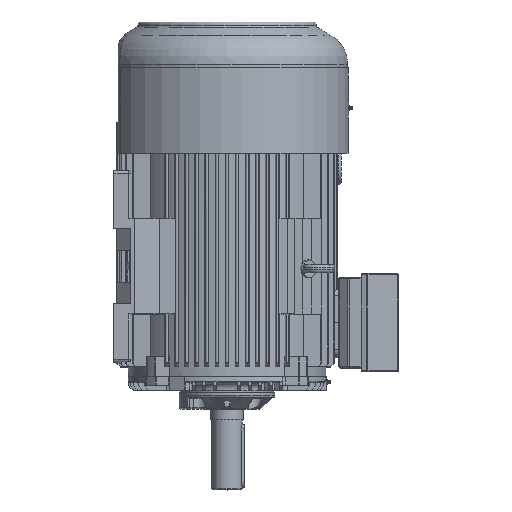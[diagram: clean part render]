
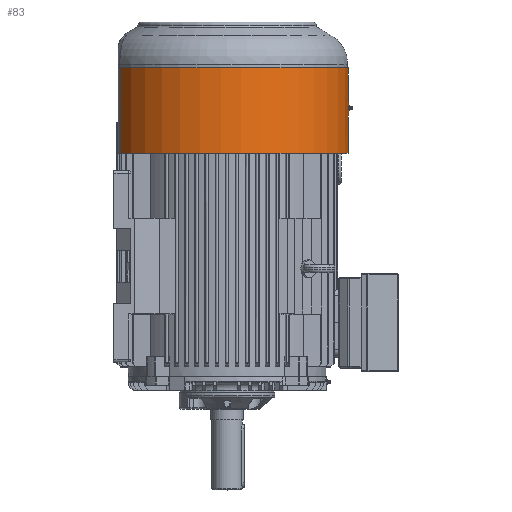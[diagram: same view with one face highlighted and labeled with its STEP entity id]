
A CAD part, top view. The second image highlights one B-rep face of the part: STEP entity #83.
In plain terms, the highlighted cylindrical face has radius 241.5 mm (diameter 483 mm), a partial arc.
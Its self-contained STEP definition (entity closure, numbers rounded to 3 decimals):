
#83 = ADVANCED_FACE( '', ( #1286, #1287 ), #1288, .T. );
#1286 = FACE_OUTER_BOUND( '', #3795, .T. );
#1287 = FACE_BOUND( '', #3796, .T. );
#1288 = CYLINDRICAL_SURFACE( '', #3797, 241.5 );
#3795 = EDGE_LOOP( '', ( #7930, #7931, #7932, #7933 ) );
#3796 = EDGE_LOOP( '', ( #7934, #7935, #7936, #7937, #7938, #7939 ) );
#3797 = AXIS2_PLACEMENT_3D( '', #7940, #7941, #7942 );
#7930 = ORIENTED_EDGE( '', *, *, #17792, .F. );
#7931 = ORIENTED_EDGE( '', *, *, #17793, .T. );
#7932 = ORIENTED_EDGE( '', *, *, #17610, .T. );
#7933 = ORIENTED_EDGE( '', *, *, #17605, .F. );
#7934 = ORIENTED_EDGE( '', *, *, #17794, .T. );
#7935 = ORIENTED_EDGE( '', *, *, #17795, .T. );
#7936 = ORIENTED_EDGE( '', *, *, #17796, .T. );
#7937 = ORIENTED_EDGE( '', *, *, #17797, .T. );
#7938 = ORIENTED_EDGE( '', *, *, #17798, .T. );
#7939 = ORIENTED_EDGE( '', *, *, #17799, .T. );
#7940 = CARTESIAN_POINT( '', ( 0., 614.5, 0. ) );
#7941 = DIRECTION( '', ( 0., 1., 0. ) );
#7942 = DIRECTION( '', ( -1., 0., 0. ) );
#17605 = EDGE_CURVE( '', #20843, #20845, #20846, .T. );
#17610 = EDGE_CURVE( '', #20854, #20845, #20855, .T. );
#17792 = EDGE_CURVE( '', #21217, #20843, #21218, .T. );
#17793 = EDGE_CURVE( '', #21217, #20854, #21219, .T. );
#17794 = EDGE_CURVE( '', #21220, #21221, #21222, .F. );
#17795 = EDGE_CURVE( '', #21221, #21223, #21224, .F. );
#17796 = EDGE_CURVE( '', #21223, #21225, #21226, .F. );
#17797 = EDGE_CURVE( '', #21225, #21227, #21228, .F. );
#17798 = EDGE_CURVE( '', #21227, #21229, #21230, .F. );
#17799 = EDGE_CURVE( '', #21229, #21220, #21231, .F. );
#20843 = VERTEX_POINT( '', #26085 );
#20845 = VERTEX_POINT( '', #26087 );
#20846 = LINE( '', #26088, #26089 );
#20854 = VERTEX_POINT( '', #26099 );
#20855 = CIRCLE( '', #26100, 241.5 );
#21217 = VERTEX_POINT( '', #26597 );
#21218 = CIRCLE( '', #26598, 241.5 );
#21219 = LINE( '', #26599, #26600 );
#21220 = VERTEX_POINT( '', #26601 );
#21221 = VERTEX_POINT( '', #26602 );
#21222 = ELLIPSE( '', #26603, 483., 241.5 );
#21223 = VERTEX_POINT( '', #26604 );
#21224 = CIRCLE( '', #26605, 241.5 );
#21225 = VERTEX_POINT( '', #26606 );
#21226 = ELLIPSE( '', #26607, 483., 241.5 );
#21227 = VERTEX_POINT( '', #26608 );
#21228 = ELLIPSE( '', #26609, 483., 241.5 );
#21229 = VERTEX_POINT( '', #26610 );
#21230 = CIRCLE( '', #26611, 241.5 );
#21231 = ELLIPSE( '', #26612, 483., 241.5 );
#26085 = CARTESIAN_POINT( '', ( -212.75, 614.5, -114.279 ) );
#26087 = CARTESIAN_POINT( '', ( -212.75, 444.5, -114.279 ) );
#26088 = CARTESIAN_POINT( '', ( -212.75, 1186.785, -114.279 ) );
#26089 = VECTOR( '', #37608, 1000. );
#26099 = CARTESIAN_POINT( '', ( -212.75, 444.5, 114.279 ) );
#26100 = AXIS2_PLACEMENT_3D( '', #37617, #37618, #37619 );
#26597 = CARTESIAN_POINT( '', ( -212.75, 614.5, 114.279 ) );
#26598 = AXIS2_PLACEMENT_3D( '', #37975, #37976, #37977 );
#26599 = CARTESIAN_POINT( '', ( -212.75, 1186.785, 114.279 ) );
#26600 = VECTOR( '', #37978, 1000. );
#26601 = CARTESIAN_POINT( '', ( 241.416, 534.5, -6.351 ) );
#26602 = CARTESIAN_POINT( '', ( 241.479, 529., -3.175 ) );
#26603 = AXIS2_PLACEMENT_3D( '', #37979, #37980, #37981 );
#26604 = CARTESIAN_POINT( '', ( 241.479, 529., 3.175 ) );
#26605 = AXIS2_PLACEMENT_3D( '', #37982, #37983, #37984 );
#26606 = CARTESIAN_POINT( '', ( 241.416, 534.5, 6.351 ) );
#26607 = AXIS2_PLACEMENT_3D( '', #37985, #37986, #37987 );
#26608 = CARTESIAN_POINT( '', ( 241.479, 540., 3.175 ) );
#26609 = AXIS2_PLACEMENT_3D( '', #37988, #37989, #37990 );
#26610 = CARTESIAN_POINT( '', ( 241.479, 540., -3.175 ) );
#26611 = AXIS2_PLACEMENT_3D( '', #37991, #37992, #37993 );
#26612 = AXIS2_PLACEMENT_3D( '', #37994, #37995, #37996 );
#37608 = DIRECTION( '', ( 0., -1., 0. ) );
#37617 = CARTESIAN_POINT( '', ( 0., 444.5, 0. ) );
#37618 = DIRECTION( '', ( 0., 1., 0. ) );
#37619 = DIRECTION( '', ( 0., 0., -1. ) );
#37975 = CARTESIAN_POINT( '', ( 0., 614.5, 0. ) );
#37976 = DIRECTION( '', ( 0., 1., 0. ) );
#37977 = DIRECTION( '', ( 0., 0., -1. ) );
#37978 = DIRECTION( '', ( 0., -1., 0. ) );
#37979 = CARTESIAN_POINT( '', ( 0., 523.5, 0. ) );
#37980 = DIRECTION( '', ( 0., 0.5, 0.866 ) );
#37981 = DIRECTION( '', ( 0., -0.866, 0.5 ) );
#37982 = CARTESIAN_POINT( '', ( 0., 529., 0. ) );
#37983 = DIRECTION( '', ( 0., 1., 0. ) );
#37984 = DIRECTION( '', ( -1., 0., 0. ) );
#37985 = CARTESIAN_POINT( '', ( 0., 523.5, 0. ) );
#37986 = DIRECTION( '', ( 0., 0.5, -0.866 ) );
#37987 = DIRECTION( '', ( 0., -0.866, -0.5 ) );
#37988 = CARTESIAN_POINT( '', ( 0., 545.5, 0. ) );
#37989 = DIRECTION( '', ( 0., -0.5, -0.866 ) );
#37990 = DIRECTION( '', ( 0., -0.866, 0.5 ) );
#37991 = CARTESIAN_POINT( '', ( 0., 540., 0. ) );
#37992 = DIRECTION( '', ( 0., -1., 0. ) );
#37993 = DIRECTION( '', ( 1., 0., 0. ) );
#37994 = CARTESIAN_POINT( '', ( 0., 545.5, 0. ) );
#37995 = DIRECTION( '', ( 0., -0.5, 0.866 ) );
#37996 = DIRECTION( '', ( 0., -0.866, -0.5 ) );
